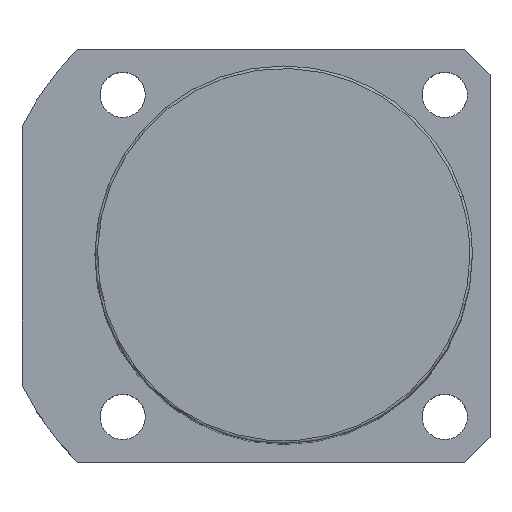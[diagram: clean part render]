
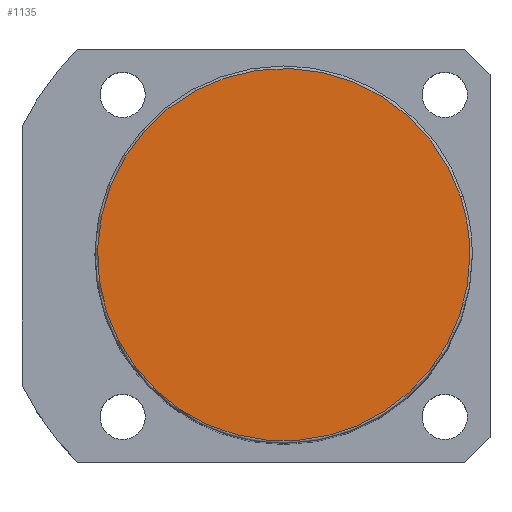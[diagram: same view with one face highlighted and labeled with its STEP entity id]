
A CAD part, top view. The second image highlights one B-rep face of the part: STEP entity #1135.
In plain terms, the highlighted planar face has unit normal (0, 0, 1).
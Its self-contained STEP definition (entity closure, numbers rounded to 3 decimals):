
#1068=CARTESIAN_POINT('',(35.189,11.434,153.0));
#1069=VERTEX_POINT('',#1068);
#1087=CARTESIAN_POINT('',(-35.189,-11.434,153.0));
#1088=VERTEX_POINT('',#1087);
#1096=CARTESIAN_POINT('',(0.0,0.0,153.0));
#1097=DIRECTION('',(0.0,0.0,1.0));
#1098=DIRECTION('',(1.0,0.0,0.0));
#1099=AXIS2_PLACEMENT_3D('',#1096,#1097,#1098);
#1100=CIRCLE('',#1099,37.0);
#1101=EDGE_CURVE('no 1701',#1069,#1088,#1100,.T.);
#1111=CARTESIAN_POINT('',(37.0,0.0,153.0));
#1112=VERTEX_POINT('',#1111);
#1113=CARTESIAN_POINT('',(0.0,0.0,153.0));
#1114=DIRECTION('',(0.0,0.0,1.0));
#1115=DIRECTION('',(1.0,0.0,0.0));
#1116=AXIS2_PLACEMENT_3D('',#1113,#1114,#1115);
#1117=CIRCLE('',#1116,37.0);
#1118=EDGE_CURVE('no 1710',#1112,#1069,#1117,.T.);
#1119=ORIENTED_EDGE('',*,*,#1118,.T.);
#1120=ORIENTED_EDGE('',*,*,#1101,.T.);
#1121=CARTESIAN_POINT('',(0.0,0.0,153.0));
#1122=DIRECTION('',(0.0,0.0,1.0));
#1123=DIRECTION('',(1.0,0.0,0.0));
#1124=AXIS2_PLACEMENT_3D('',#1121,#1122,#1123);
#1125=CIRCLE('',#1124,37.0);
#1126=EDGE_CURVE('no 1716',#1088,#1112,#1125,.T.);
#1127=ORIENTED_EDGE('',*,*,#1126,.T.);
#1128=EDGE_LOOP('',(#1119,#1120,#1127));
#1129=FACE_OUTER_BOUND('',#1128,.T.);
#1130=CARTESIAN_POINT('',(0.0,0.0,153.0));
#1131=DIRECTION('',(0.0,0.0,1.0));
#1132=DIRECTION('',(1.0,0.0,0.0));
#1133=AXIS2_PLACEMENT_3D('',#1130,#1131,#1132);
#1134=PLANE('',#1133);
#1135=ADVANCED_FACE('no 1703',(#1129),#1134,.T.);
